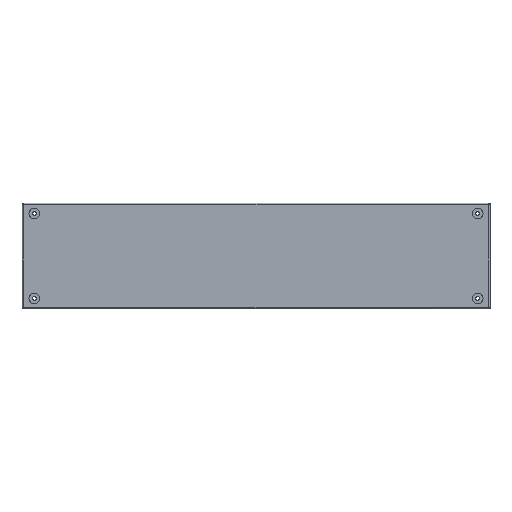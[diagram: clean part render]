
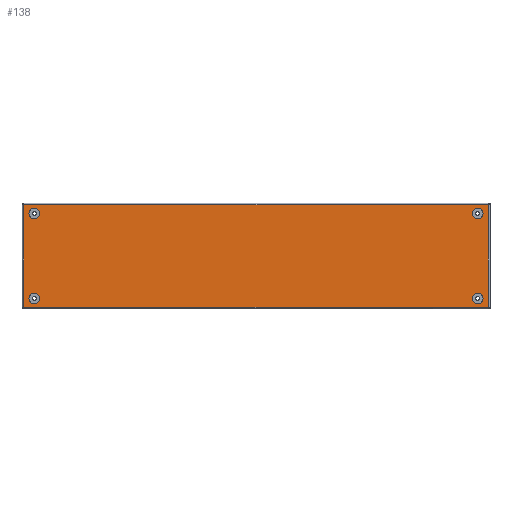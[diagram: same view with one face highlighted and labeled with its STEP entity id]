
A CAD part, top view. The second image highlights one B-rep face of the part: STEP entity #138.
In plain terms, the highlighted planar face has unit normal (0, 0, 1).
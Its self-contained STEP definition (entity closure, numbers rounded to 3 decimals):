
#138=ADVANCED_FACE('',(#950,#952,#954,#956,#958),#960,.F.);
#950=FACE_BOUND('',#951,.T.);
#951=EDGE_LOOP('',(#2117,#2118,#2119,#2120));
#952=FACE_BOUND('',#953,.T.);
#953=EDGE_LOOP('',(#2121));
#954=FACE_BOUND('',#955,.T.);
#955=EDGE_LOOP('',(#2122));
#956=FACE_BOUND('',#957,.T.);
#957=EDGE_LOOP('',(#2123));
#958=FACE_BOUND('',#959,.T.);
#959=EDGE_LOOP('',(#2124));
#960=PLANE('',#961);
#961=AXIS2_PLACEMENT_3D('',#962,#963,#964);
#962=CARTESIAN_POINT('',(0.,0.,0.));
#963=DIRECTION('',(0.,0.,-1.));
#964=DIRECTION('',(-1.,0.,0.));
#2117=ORIENTED_EDGE('',*,*,#2677,.T.);
#2118=ORIENTED_EDGE('',*,*,#2678,.T.);
#2119=ORIENTED_EDGE('',*,*,#2679,.T.);
#2120=ORIENTED_EDGE('',*,*,#2680,.T.);
#2121=ORIENTED_EDGE('',*,*,#2635,.F.);
#2122=ORIENTED_EDGE('',*,*,#2633,.F.);
#2123=ORIENTED_EDGE('',*,*,#2631,.F.);
#2124=ORIENTED_EDGE('',*,*,#2629,.F.);
#2629=EDGE_CURVE('',#3049,#3049,#3050,.T.);
#2631=EDGE_CURVE('',#3053,#3053,#3054,.T.);
#2633=EDGE_CURVE('',#3057,#3057,#3058,.T.);
#2635=EDGE_CURVE('',#3061,#3061,#3062,.T.);
#2677=EDGE_CURVE('',#3141,#3142,#3143,.T.);
#2678=EDGE_CURVE('',#3142,#3144,#3145,.T.);
#2679=EDGE_CURVE('',#3144,#3146,#3147,.T.);
#2680=EDGE_CURVE('',#3146,#3141,#3148,.T.);
#3049=VERTEX_POINT('',#3965);
#3050=CIRCLE('',#3966,10.);
#3053=VERTEX_POINT('',#3975);
#3054=CIRCLE('',#3976,10.);
#3057=VERTEX_POINT('',#3985);
#3058=CIRCLE('',#3986,10.);
#3061=VERTEX_POINT('',#3995);
#3062=CIRCLE('',#3996,10.);
#3141=VERTEX_POINT('',#4169);
#3142=VERTEX_POINT('',#4170);
#3143=LINE('',#4171,#4172);
#3144=VERTEX_POINT('',#4174);
#3145=LINE('',#4175,#4176);
#3146=VERTEX_POINT('',#4178);
#3147=LINE('',#4179,#4180);
#3148=LINE('',#4182,#4183);
#3965=CARTESIAN_POINT('',(-407.51,80.,0.));
#3966=AXIS2_PLACEMENT_3D('',#3967,#3968,#3969);
#3967=CARTESIAN_POINT('',(-417.51,80.,0.));
#3968=DIRECTION('',(0.,0.,1.));
#3969=DIRECTION('',(-1.,0.,0.));
#3975=CARTESIAN_POINT('',(427.51,80.,0.));
#3976=AXIS2_PLACEMENT_3D('',#3977,#3978,#3979);
#3977=CARTESIAN_POINT('',(417.51,80.,0.));
#3978=DIRECTION('',(0.,0.,1.));
#3979=DIRECTION('',(-1.,0.,0.));
#3985=CARTESIAN_POINT('',(427.51,-80.,0.));
#3986=AXIS2_PLACEMENT_3D('',#3987,#3988,#3989);
#3987=CARTESIAN_POINT('',(417.51,-80.,0.));
#3988=DIRECTION('',(0.,0.,1.));
#3989=DIRECTION('',(-1.,0.,0.));
#3995=CARTESIAN_POINT('',(-407.51,-80.,0.));
#3996=AXIS2_PLACEMENT_3D('',#3997,#3998,#3999);
#3997=CARTESIAN_POINT('',(-417.51,-80.,0.));
#3998=DIRECTION('',(0.,0.,1.));
#3999=DIRECTION('',(-1.,0.,0.));
#4169=CARTESIAN_POINT('',(437.45,-96.3,0.));
#4170=CARTESIAN_POINT('',(437.45,96.3,0.));
#4171=CARTESIAN_POINT('',(437.45,-96.3,0.));
#4172=VECTOR('',#4173,1.);
#4173=DIRECTION('',(0.,1.,0.));
#4174=CARTESIAN_POINT('',(-437.45,96.3,0.));
#4175=CARTESIAN_POINT('',(437.45,96.3,0.));
#4176=VECTOR('',#4177,1.);
#4177=DIRECTION('',(-1.,0.,0.));
#4178=CARTESIAN_POINT('',(-437.45,-96.3,0.));
#4179=CARTESIAN_POINT('',(-437.45,96.3,0.));
#4180=VECTOR('',#4181,1.);
#4181=DIRECTION('',(0.,-1.,0.));
#4182=CARTESIAN_POINT('',(-437.45,-96.3,0.));
#4183=VECTOR('',#4184,1.);
#4184=DIRECTION('',(1.,0.,0.));
